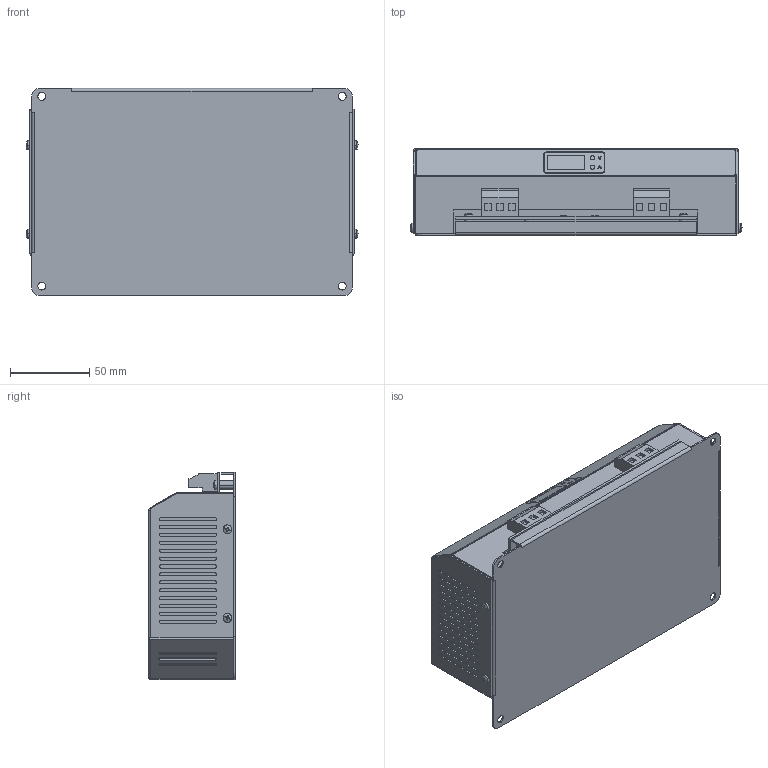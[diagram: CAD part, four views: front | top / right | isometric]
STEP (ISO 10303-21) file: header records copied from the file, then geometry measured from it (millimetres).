
FILE_DESCRIPTION((''),'2;1');
FILE_NAME('PRT0002','2024-08-19T09:49:22',('Administrator'),(''),'CREO PARAMETRIC BY PTC INC, 2019010','CREO PARAMETRIC BY PTC INC, 2019010','');
FILE_SCHEMA(('CONFIG_CONTROL_DESIGN'));
Length unit declared in the file: metre
Products named in the file (1): PRT0002
Bounding box: 210.01 x 55 x 131 mm (x, y, z)
Volume: 1283108.5 mm3; surface area: 105773.9 mm2
Topology: 1 solids, 10 shells, 1147 faces, 3091 edges, 2132 vertices
Faces by surface type: plane 710, cylinder 385, extrusion 20, sphere 12, cone 12, bspline 8
Entity records: 37830 total; most frequent: CARTESIAN_POINT 8181, ORIENTED_EDGE 6158, DIRECTION 6145, EDGE_CURVE 3079, AXIS2_PLACEMENT_3D 2173, VERTEX_POINT 2132, VECTOR 1799, LINE 1779
